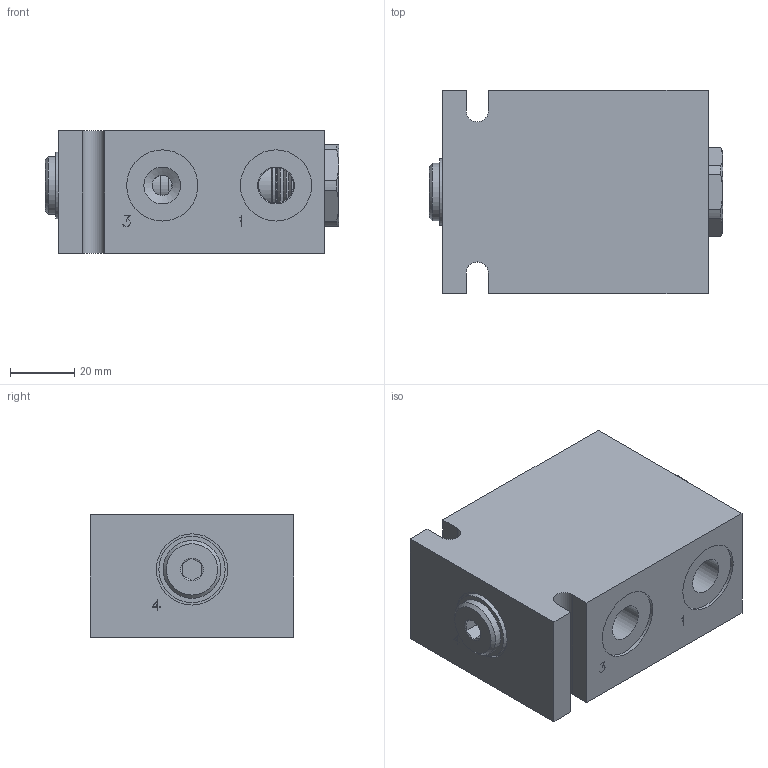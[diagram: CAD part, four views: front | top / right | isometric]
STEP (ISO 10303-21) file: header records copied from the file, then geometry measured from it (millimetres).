
FILE_DESCRIPTION( ( 'Unknown' ), '1' );
FILE_NAME( 'G:/Graphic Design/Graphic Design 2/Data Sheets/FLOW CONTROLS/2_STEP/Flow Divide_Combiner Valves/D-DGFDA00-A4.stp', 'Unknown', ( 'Unknown' ), ( 'Unknown' ), 'PSStep 16.0.42', 'Unknown', ' ' );
FILE_SCHEMA( ( 'AUTOMOTIVE_DESIGN { 1 0 10303 214 1 1 1 1 }' ) );
Length unit declared in the file: millimetre
Products named in the file (18): DGFDA00; DGFDA00-3D Full1; DGFDA00-3D Full2; DGFDA00-3D Full3; DGFDA00-3D Full4; DGFDA00-3D Full5; DGFDA00-3D Full6; DGFDA00-3D Full7; DGFDA00-3D Full8; DGFDA00-3D Full9; DGFDA00-3D Full10; DGFDA00-3D Full11; DGFDA00-3D Full12; DGFDA00-3D Full13; Assem1; B-DDGA4; PT-SL-BI-014; PT-PLG-AH-014B
Assembly tree (17 placements, depth 3):
  Assem1
    B-DDGA4
    PT-SL-BI-014
    PT-PLG-AH-014B
    DGFDA00
      DGFDA00-3D Full1
      DGFDA00-3D Full2
      DGFDA00-3D Full3
      DGFDA00-3D Full4
      DGFDA00-3D Full5
      DGFDA00-3D Full6
      DGFDA00-3D Full7
      DGFDA00-3D Full8
      DGFDA00-3D Full9
      DGFDA00-3D Full10
      DGFDA00-3D Full11
      DGFDA00-3D Full12
      DGFDA00-3D Full13
Bounding box: 91.56 x 63.5 x 38.1 mm (x, y, z)
Surface area: 43088.9 mm2 (no closed solid volume)
Topology: 0 solids, 344 shells, 344 faces, 1490 edges, 1371 vertices
Faces by surface type: plane 184, cylinder 92, cone 54, torus 14
Full cylindrical faces by diameter (mm): 0.2 x4, 1.016 x1, 6.3 x2, 7.315 x1, 7.925 x1, 11 x1, 11.039 x2, 11.11 x3, 11.5 x7, 12.992 x1, 13.043 x2, 13.2 x1, 13.5 x1, 14 x1, 14.275 x1, 14.58 x1, 14.63 x2, 15.735 x2, 15.748 x1, 15.773 x1, 15.85 x2, 15.9 x1, 16.167 x1, 16.218 x2, 17.323 x3, 17.374 x2, 17.501 x1, 18 x1, 18.91 x2, 18.948 x2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
Entity records: 17680 total; most frequent: CARTESIAN_POINT 4190, DIRECTION 2176, VERTEX_POINT 1333, ORIENTED_EDGE 1328, EDGE_CURVE 1328, AXIS2_PLACEMENT_3D 895, CIRCLE 532, FACE_BOUND 519
